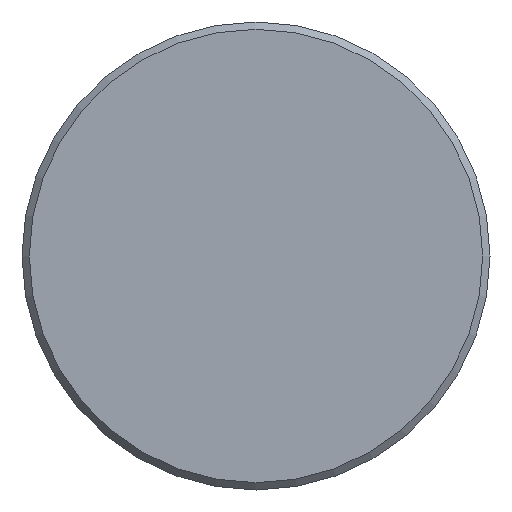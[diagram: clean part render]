
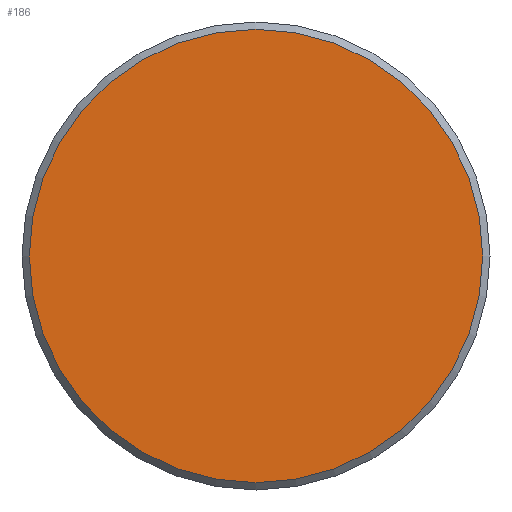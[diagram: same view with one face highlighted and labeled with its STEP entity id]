
A CAD part, front view. The second image highlights one B-rep face of the part: STEP entity #186.
In plain terms, the highlighted planar face has unit normal (0, -1, 0).
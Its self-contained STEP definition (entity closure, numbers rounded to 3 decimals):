
#186 = ADVANCED_FACE( '', ( #364 ), #365, .F. );
#364 = FACE_OUTER_BOUND( '', #560, .T. );
#365 = PLANE( '', #561 );
#560 = EDGE_LOOP( '', ( #849 ) );
#561 = AXIS2_PLACEMENT_3D( '', #850, #851, #852 );
#849 = ORIENTED_EDGE( '', *, *, #1174, .T. );
#850 = CARTESIAN_POINT( '', ( 15.5, 0., 0. ) );
#851 = DIRECTION( '', ( 0., 1., 0. ) );
#852 = DIRECTION( '', ( 0., 0., 1. ) );
#1174 = EDGE_CURVE( '', #1377, #1377, #1378, .T. );
#1377 = VERTEX_POINT( '', #1795 );
#1378 = CIRCLE( '', #1796, 15.5 );
#1795 = CARTESIAN_POINT( '', ( 0., 0., -15.5 ) );
#1796 = AXIS2_PLACEMENT_3D( '', #2009, #2010, #2011 );
#2009 = CARTESIAN_POINT( '', ( 0., 0., 0. ) );
#2010 = DIRECTION( '', ( 0., -1., 0. ) );
#2011 = DIRECTION( '', ( 0., 0., -1. ) );
